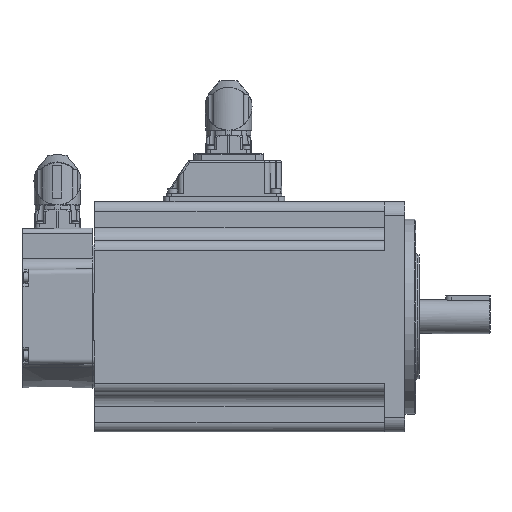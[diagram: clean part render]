
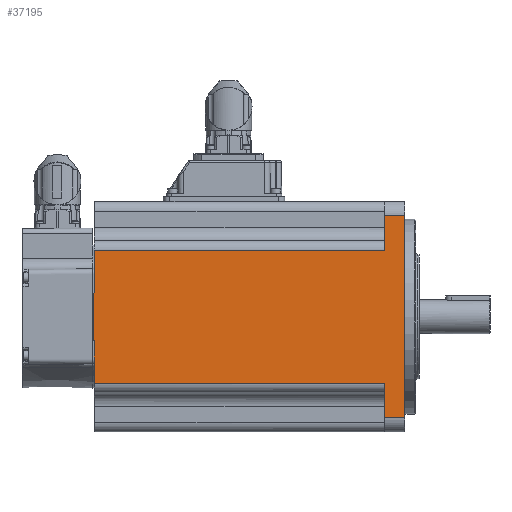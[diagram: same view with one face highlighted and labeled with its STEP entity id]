
A CAD part, left-side view. The second image highlights one B-rep face of the part: STEP entity #37195.
In plain terms, the highlighted planar face has unit normal (-1, 0, 0).
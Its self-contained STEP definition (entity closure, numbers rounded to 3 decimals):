
#37195 = ADVANCED_FACE( '', ( #58638 ), #58639, .T. );
#58638 = FACE_OUTER_BOUND( '', #67812, .T. );
#58639 = PLANE( '', #67813 );
#60469 = EDGE_CURVE( '', #70865, #70863, #70866, .T. );
#60544 = EDGE_CURVE( '', #70992, #70995, #70996, .T. );
#61613 = EDGE_CURVE( '', #70992, #72799, #72800, .F. );
#63493 = EDGE_CURVE( '', #75655, #70995, #75656, .T. );
#64073 = EDGE_CURVE( '', #75655, #76483, #76484, .T. );
#64792 = EDGE_CURVE( '', #77474, #72799, #77475, .T. );
#66387 = EDGE_CURVE( '', #79501, #70865, #79502, .T. );
#67812 = EDGE_LOOP( '', ( #82011, #82012, #82013, #82014, #82015, #82016, #82017, #82018, #82019 ) );
#67813 = AXIS2_PLACEMENT_3D( '', #82020, #82021, #82022 );
#70863 = VERTEX_POINT( '', #88611 );
#70865 = VERTEX_POINT( '', #88613 );
#70866 = LINE( '', #88614, #88615 );
#70992 = VERTEX_POINT( '', #88811 );
#70995 = VERTEX_POINT( '', #88814 );
#70996 = LINE( '', #88815, #88816 );
#72799 = VERTEX_POINT( '', #92974 );
#72800 = LINE( '', #92975, #92976 );
#75655 = VERTEX_POINT( '', #99379 );
#75656 = LINE( '', #99380, #99381 );
#76483 = VERTEX_POINT( '', #101146 );
#76484 = LINE( '', #101147, #101148 );
#77474 = VERTEX_POINT( '', #104067 );
#77475 = LINE( '', #104068, #104069 );
#79501 = VERTEX_POINT( '', #108511 );
#79502 = LINE( '', #108512, #108513 );
#82011 = ORIENTED_EDGE( '', *, *, #110796, .T. );
#82012 = ORIENTED_EDGE( '', *, *, #64073, .F. );
#82013 = ORIENTED_EDGE( '', *, *, #63493, .T. );
#82014 = ORIENTED_EDGE( '', *, *, #60544, .F. );
#82015 = ORIENTED_EDGE( '', *, *, #61613, .T. );
#82016 = ORIENTED_EDGE( '', *, *, #64792, .F. );
#82017 = ORIENTED_EDGE( '', *, *, #110791, .T. );
#82018 = ORIENTED_EDGE( '', *, *, #66387, .T. );
#82019 = ORIENTED_EDGE( '', *, *, #60469, .T. );
#82020 = CARTESIAN_POINT( '', ( -65., 70.8, -65. ) );
#82021 = DIRECTION( '', ( -1., 0., 0. ) );
#82022 = DIRECTION( '', ( 0., 0., 1. ) );
#88611 = CARTESIAN_POINT( '', ( -65., 142.273, -37.5 ) );
#88613 = CARTESIAN_POINT( '', ( -65., 142.6, 0. ) );
#88614 = CARTESIAN_POINT( '', ( -65., 142.027, -65.622 ) );
#88615 = VECTOR( '', #113315, 1000. );
#88811 = CARTESIAN_POINT( '', ( -65., -32.9, 57. ) );
#88814 = CARTESIAN_POINT( '', ( -65., -32.9, -57. ) );
#88815 = CARTESIAN_POINT( '', ( -65., -32.9, 65. ) );
#88816 = VECTOR( '', #113430, 1000. );
#92974 = CARTESIAN_POINT( '', ( -65., -21.4, 57. ) );
#92975 = CARTESIAN_POINT( '', ( -65., 283.758, 57. ) );
#92976 = VECTOR( '', #114715, 1000. );
#99379 = CARTESIAN_POINT( '', ( -65., -21.4, -57. ) );
#99380 = CARTESIAN_POINT( '', ( -65., 283.758, -57. ) );
#99381 = VECTOR( '', #116881, 1000. );
#101146 = CARTESIAN_POINT( '', ( -65., -21.4, -37.5 ) );
#101147 = CARTESIAN_POINT( '', ( -65., -21.4, 65. ) );
#101148 = VECTOR( '', #117532, 1000. );
#104067 = CARTESIAN_POINT( '', ( -65., -21.4, 37.5 ) );
#104068 = CARTESIAN_POINT( '', ( -65., -21.4, 65. ) );
#104069 = VECTOR( '', #118239, 1000. );
#108511 = CARTESIAN_POINT( '', ( -65., 142.273, 37.5 ) );
#108512 = CARTESIAN_POINT( '', ( -65., 143.162, -64.369 ) );
#108513 = VECTOR( '', #119844, 1000. );
#110791 = EDGE_CURVE( '', #77474, #79501, #121048, .F. );
#110796 = EDGE_CURVE( '', #70863, #76483, #121053, .F. );
#113315 = DIRECTION( '', ( 0., -0.009, -1. ) );
#113430 = DIRECTION( '', ( 0., 0., -1. ) );
#114715 = DIRECTION( '', ( 0., -1., 0. ) );
#116881 = DIRECTION( '', ( 0., -1., 0. ) );
#117532 = DIRECTION( '', ( 0., 0., 1. ) );
#118239 = DIRECTION( '', ( 0., 0., 1. ) );
#119844 = DIRECTION( '', ( 0., 0.009, -1. ) );
#121048 = LINE( '', #122551, #122552 );
#121053 = LINE( '', #122561, #122562 );
#122551 = CARTESIAN_POINT( '', ( -65., 150.8, 37.5 ) );
#122552 = VECTOR( '', #123903, 1000. );
#122561 = CARTESIAN_POINT( '', ( -65., 70.8, -37.5 ) );
#122562 = VECTOR( '', #123908, 1000. );
#123903 = DIRECTION( '', ( 0., -1., 0. ) );
#123908 = DIRECTION( '', ( 0., 1., 0. ) );
